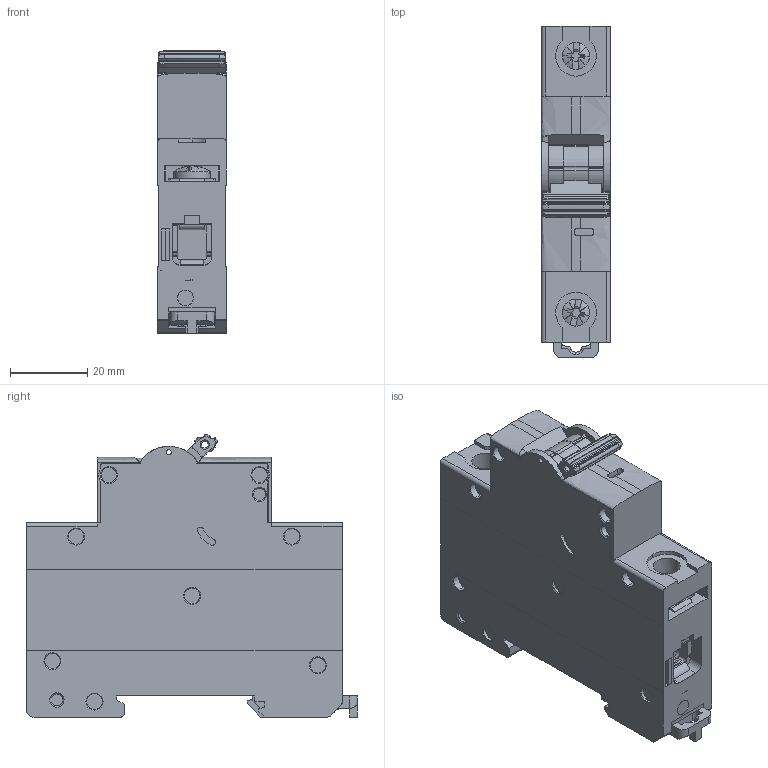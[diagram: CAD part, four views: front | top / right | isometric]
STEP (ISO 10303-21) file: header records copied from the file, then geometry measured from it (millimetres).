
FILE_DESCRIPTION (( 'STEP AP214' ), '1' );
FILE_NAME ('MCB_M06N.STEP', '2026-07-02T12:41:02', ( '' ), ( '' ), 'SwSTEP 2.0', 'SolidWorks 2022', '' );
FILE_SCHEMA (( 'AUTOMOTIVE_DESIGN' ));
Length unit declared in the file: millimetre
Products named in the file (1): MCB_M06N
Bounding box: 17.8 x 85.45 x 72.89 mm (x, y, z)
Volume: 76488.4 mm3; surface area: 34740.2 mm2
Topology: 4 solids, 26 shells, 1575 faces, 4367 edges, 2811 vertices
Faces by surface type: plane 1046, cylinder 346, cone 74, bspline 62, torus 39, sphere 8
Entity records: 53770 total; most frequent: CARTESIAN_POINT 13586, ORIENTED_EDGE 8702, DIRECTION 7988, EDGE_CURVE 4351, LINE 3082, VECTOR 3082, VERTEX_POINT 2811, AXIS2_PLACEMENT_3D 2453
